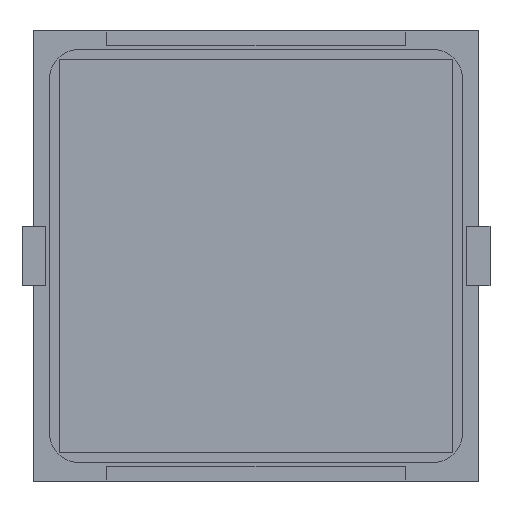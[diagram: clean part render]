
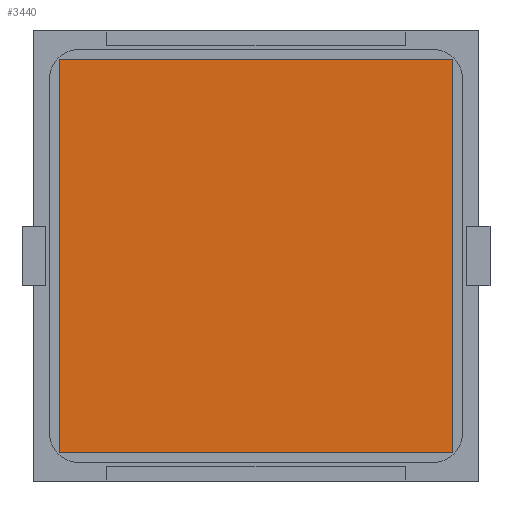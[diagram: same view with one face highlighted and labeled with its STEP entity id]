
A CAD part, front view. The second image highlights one B-rep face of the part: STEP entity #3440.
In plain terms, the highlighted planar face has unit normal (0, -1, 0).
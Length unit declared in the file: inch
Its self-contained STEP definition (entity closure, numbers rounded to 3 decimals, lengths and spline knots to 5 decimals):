
#54 = VERTEX_POINT ( 'NONE', #7396 ) ;
#547 = EDGE_CURVE ( 'NONE', #7628, #54, #9468, .T. ) ;
#552 = LINE ( 'NONE', #3042, #6064 ) ;
#1211 = ORIENTED_EDGE ( 'NONE', *, *, #8176, .F. ) ;
#1367 = ORIENTED_EDGE ( 'NONE', *, *, #10258, .F. ) ;
#1432 = DIRECTION ( 'NONE',  ( 0., 0., 1. ) ) ;
#2061 = DIRECTION ( 'NONE',  ( 0., 0., 1. ) ) ;
#2895 = CARTESIAN_POINT ( 'NONE',  ( 0.64961, -0.005, 0.64961 ) ) ;
#3042 = CARTESIAN_POINT ( 'NONE',  ( -0.64961, -0.005, -0.64961 ) ) ;
#3440 = ADVANCED_FACE ( 'NONE', ( #7914 ), #9335, .F. ) ;
#3659 = CARTESIAN_POINT ( 'NONE',  ( -0.64961, -0.005, 0.64961 ) ) ;
#3776 = LINE ( 'NONE', #9564, #6505 ) ;
#4052 = EDGE_CURVE ( 'NONE', #54, #9581, #5499, .T. ) ;
#4405 = ORIENTED_EDGE ( 'NONE', *, *, #4052, .F. ) ;
#4544 = CARTESIAN_POINT ( 'NONE',  ( -0.64961, -0.005, -0.64961 ) ) ;
#4680 = ORIENTED_EDGE ( 'NONE', *, *, #547, .F. ) ;
#4783 = CARTESIAN_POINT ( 'NONE',  ( -0.64961, -0.005, 0.64961 ) ) ;
#4829 = DIRECTION ( 'NONE',  ( 0., 1., 0. ) ) ;
#5131 = AXIS2_PLACEMENT_3D ( 'NONE', #4783, #4829, #1432 ) ;
#5396 = VECTOR ( 'NONE', #2061, 39.37008 ) ;
#5459 = DIRECTION ( 'NONE',  ( 0., 0., -1. ) ) ;
#5499 = LINE ( 'NONE', #3659, #8107 ) ;
#6064 = VECTOR ( 'NONE', #9016, 39.37008 ) ;
#6505 = VECTOR ( 'NONE', #5459, 39.37008 ) ;
#7396 = CARTESIAN_POINT ( 'NONE',  ( -0.64961, -0.005, 0.64961 ) ) ;
#7438 = EDGE_LOOP ( 'NONE', ( #4680, #1211, #1367, #4405 ) ) ;
#7628 = VERTEX_POINT ( 'NONE', #8444 ) ;
#7914 = FACE_OUTER_BOUND ( 'NONE', #7438, .T. ) ;
#8107 = VECTOR ( 'NONE', #8679, 39.37008 ) ;
#8176 = EDGE_CURVE ( 'NONE', #9148, #7628, #552, .T. ) ;
#8444 = CARTESIAN_POINT ( 'NONE',  ( -0.64961, -0.005, -0.64961 ) ) ;
#8679 = DIRECTION ( 'NONE',  ( 1., 0., 0. ) ) ;
#9016 = DIRECTION ( 'NONE',  ( -1., 0., 0. ) ) ;
#9148 = VERTEX_POINT ( 'NONE', #10361 ) ;
#9335 = PLANE ( 'NONE',  #5131 ) ;
#9468 = LINE ( 'NONE', #4544, #5396 ) ;
#9564 = CARTESIAN_POINT ( 'NONE',  ( 0.64961, -0.005, -0.64961 ) ) ;
#9581 = VERTEX_POINT ( 'NONE', #2895 ) ;
#10258 = EDGE_CURVE ( 'NONE', #9581, #9148, #3776, .T. ) ;
#10361 = CARTESIAN_POINT ( 'NONE',  ( 0.64961, -0.005, -0.64961 ) ) ;
